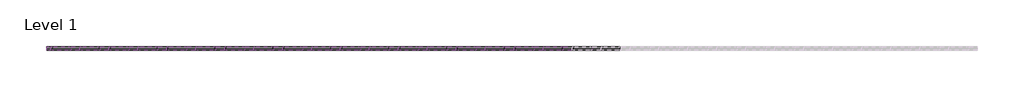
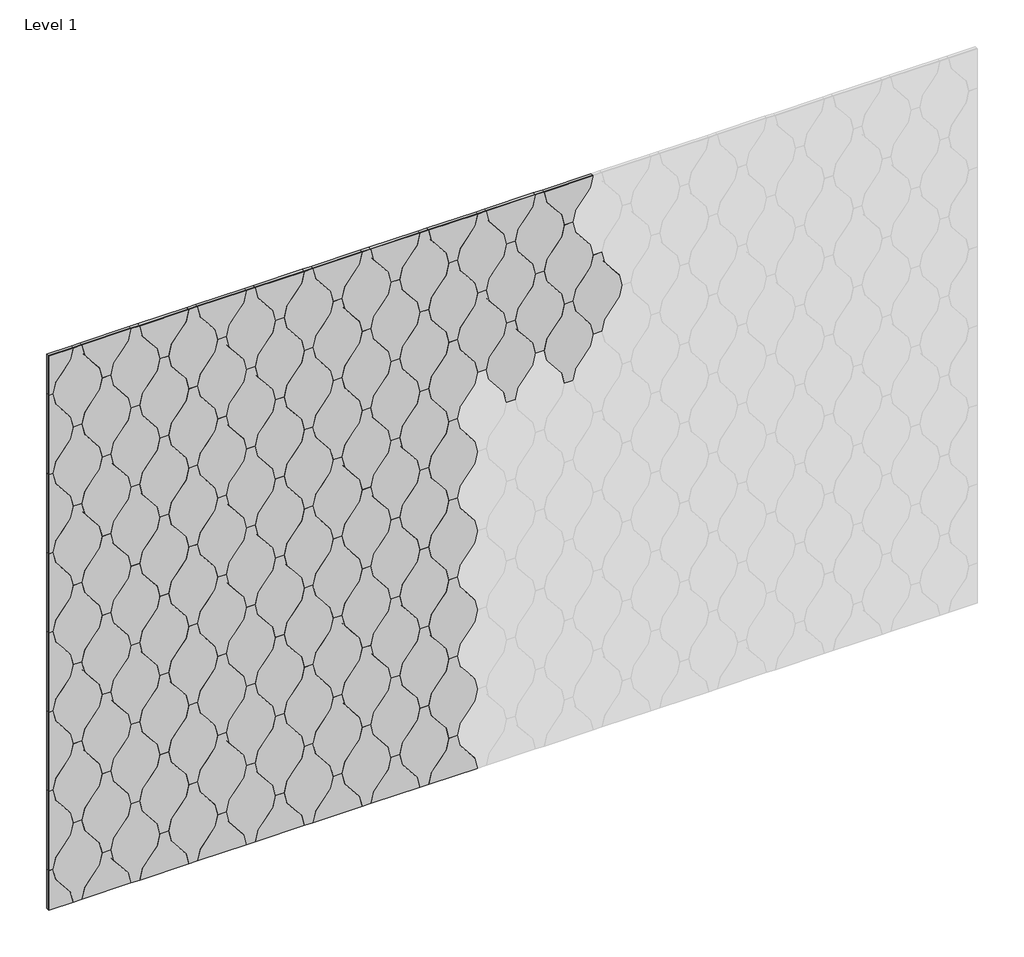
# One storey, part 1 of 2: 124 proxies.
"""IFC4 building model written with IfcOpenShell, lengths in millimetres."""

from ifc_helpers import new_model, si_unit, origin, place, context, project, spatial, transform, mapped, element, save
from components import spindle_block_7b1ab8b0, spindle_block_0c82a0da, spindle_block_164295e7, spindle_block_542214b9, spindle_block_caec9fa1, spindle_block_8c0b6001

model = new_model("IFC4")

# Units and contexts
model_context = context("Model", 3, world=origin())
ifc_project = project(units=[si_unit("LENGTHUNIT", "METRE", prefix="MILLI")], contexts=[model_context])

# Site, building, storey
site = spatial("IfcSite", under=ifc_project)
building = spatial("IfcBuilding", under=site)
storey = spatial("IfcBuildingStorey", under=building, Name="Level 1", Elevation=0.0)

# Proxies
placement = place(None, origin())
spindle_block_shape = spindle_block_7b1ab8b0(model_context)
element("IfcBuildingElementProxy", 1, Name="FilzFelt_Spindle_Block : Spindle Block", ObjectType="FilzFelt_Spindle_Block : Spindle Block", at=placement, inside=storey, context=model_context, shape_type="MappedRepresentation", body=[
    mapped(spindle_block_shape, transform((32453.77409, -3215.9647205, 1371.9), x_axis=(1.0, 0.0, 0.0), y_axis=(0.0, 0.0, 1.0), z_axis=(0.0, -1.0, 0.0))),
])
element("IfcBuildingElementProxy", 2, Name="FilzFelt_Spindle_Block : Spindle Block", ObjectType="FilzFelt_Spindle_Block : Spindle Block", at=placement, inside=storey, context=model_context, shape_type="MappedRepresentation", body=[
    mapped(spindle_block_shape, transform((32453.77409, -3215.9647205, 456.9), x_axis=(1.0, 0.0, 0.0), y_axis=(0.0, 0.0, 1.0), z_axis=(0.0, -1.0, 0.0))),
])
spindle_block_2_shape = spindle_block_0c82a0da(model_context)
element("IfcBuildingElementProxy", 3, Name="FilzFelt_Spindle_Block : Spindle Block", ObjectType="FilzFelt_Spindle_Block : Spindle Block", at=placement, inside=storey, context=model_context, shape_type="MappedRepresentation", body=[
    mapped(spindle_block_2_shape, transform((32558.9946251, -3215.9647205, 1524.4), x_axis=(1.0, 0.0, 0.0), y_axis=(0.0, 0.0, 1.0), z_axis=(0.0, -1.0, 0.0))),
])
element("IfcBuildingElementProxy", 4, Name="FilzFelt_Spindle_Block : Spindle Block", ObjectType="FilzFelt_Spindle_Block : Spindle Block", at=placement, inside=storey, context=model_context, shape_type="MappedRepresentation", body=[
    mapped(spindle_block_2_shape, transform((32664.2151603, -3215.9647205, 1371.9), x_axis=(1.0, 0.0, 0.0), y_axis=(0.0, 0.0, 1.0), z_axis=(0.0, -1.0, 0.0))),
])
element("IfcBuildingElementProxy", 5, Name="FilzFelt_Spindle_Block : Spindle Block", ObjectType="FilzFelt_Spindle_Block : Spindle Block", at=placement, inside=storey, context=model_context, shape_type="MappedRepresentation", body=[
    mapped(spindle_block_2_shape, transform((32874.6562306, -3215.9647205, 1066.9), x_axis=(1.0, 0.0, 0.0), y_axis=(0.0, 0.0, 1.0), z_axis=(0.0, -1.0, 0.0))),
])
element("IfcBuildingElementProxy", 6, Name="FilzFelt_Spindle_Block : Spindle Block", ObjectType="FilzFelt_Spindle_Block : Spindle Block", at=placement, inside=storey, context=model_context, shape_type="MappedRepresentation", body=[
    mapped(spindle_block_2_shape, transform((33085.097301, -3215.9647205, 1371.9), x_axis=(1.0, 0.0, 0.0), y_axis=(0.0, 0.0, 1.0), z_axis=(0.0, -1.0, 0.0))),
])
element("IfcBuildingElementProxy", 7, Name="FilzFelt_Spindle_Block : Spindle Block", ObjectType="FilzFelt_Spindle_Block : Spindle Block", at=placement, inside=storey, context=model_context, shape_type="MappedRepresentation", body=[
    mapped(spindle_block_2_shape, transform((33190.3178361, -3215.9647205, 1524.4), x_axis=(1.0, 0.0, 0.0), y_axis=(0.0, 0.0, 1.0), z_axis=(0.0, -1.0, 0.0))),
])
element("IfcBuildingElementProxy", 8, Name="FilzFelt_Spindle_Block : Spindle Block", ObjectType="FilzFelt_Spindle_Block : Spindle Block", at=placement, inside=storey, context=model_context, shape_type="MappedRepresentation", body=[
    mapped(spindle_block_2_shape, transform((33295.5383713, -3215.9647205, 1371.9), x_axis=(1.0, 0.0, 0.0), y_axis=(0.0, 0.0, 1.0), z_axis=(0.0, -1.0, 0.0))),
])
element("IfcBuildingElementProxy", 9, Name="FilzFelt_Spindle_Block : Spindle Block", ObjectType="FilzFelt_Spindle_Block : Spindle Block", at=placement, inside=storey, context=model_context, shape_type="MappedRepresentation", body=[
    mapped(spindle_block_2_shape, transform((33505.9794416, -3215.9647205, 1066.9), x_axis=(1.0, 0.0, 0.0), y_axis=(0.0, 0.0, 1.0), z_axis=(0.0, -1.0, 0.0))),
])
element("IfcBuildingElementProxy", 10, Name="FilzFelt_Spindle_Block : Spindle Block", ObjectType="FilzFelt_Spindle_Block : Spindle Block", at=placement, inside=storey, context=model_context, shape_type="MappedRepresentation", body=[
    mapped(spindle_block_2_shape, transform((33716.4205119, -3215.9647205, 1371.9), x_axis=(1.0, 0.0, 0.0), y_axis=(0.0, 0.0, 1.0), z_axis=(0.0, -1.0, 0.0))),
])
element("IfcBuildingElementProxy", 11, Name="FilzFelt_Spindle_Block : Spindle Block", ObjectType="FilzFelt_Spindle_Block : Spindle Block", at=placement, inside=storey, context=model_context, shape_type="MappedRepresentation", body=[
    mapped(spindle_block_2_shape, transform((33821.6410471, -3215.9647205, 1524.4), x_axis=(1.0, 0.0, 0.0), y_axis=(0.0, 0.0, 1.0), z_axis=(0.0, -1.0, 0.0))),
])
element("IfcBuildingElementProxy", 12, Name="FilzFelt_Spindle_Block : Spindle Block", ObjectType="FilzFelt_Spindle_Block : Spindle Block", at=placement, inside=storey, context=model_context, shape_type="MappedRepresentation", body=[
    mapped(spindle_block_2_shape, transform((33926.8615823, -3215.9647205, 1371.9), x_axis=(1.0, 0.0, 0.0), y_axis=(0.0, 0.0, 1.0), z_axis=(0.0, -1.0, 0.0))),
])
element("IfcBuildingElementProxy", 13, Name="FilzFelt_Spindle_Block : Spindle Block", ObjectType="FilzFelt_Spindle_Block : Spindle Block", at=placement, inside=storey, context=model_context, shape_type="MappedRepresentation", body=[
    mapped(spindle_block_2_shape, transform((34137.3026526, -3215.9647205, 1066.9), x_axis=(1.0, 0.0, 0.0), y_axis=(0.0, 0.0, 1.0), z_axis=(0.0, -1.0, 0.0))),
])
element("IfcBuildingElementProxy", 14, Name="FilzFelt_Spindle_Block : Spindle Block", ObjectType="FilzFelt_Spindle_Block : Spindle Block", at=placement, inside=storey, context=model_context, shape_type="MappedRepresentation", body=[
    mapped(spindle_block_2_shape, transform((32558.9946251, -3215.9647205, 609.4), x_axis=(1.0, 0.0, 0.0), y_axis=(0.0, 0.0, 1.0), z_axis=(0.0, -1.0, 0.0))),
])
element("IfcBuildingElementProxy", 15, Name="FilzFelt_Spindle_Block : Spindle Block", ObjectType="FilzFelt_Spindle_Block : Spindle Block", at=placement, inside=storey, context=model_context, shape_type="MappedRepresentation", body=[
    mapped(spindle_block_2_shape, transform((32664.2151603, -3215.9647205, 456.9), x_axis=(1.0, 0.0, 0.0), y_axis=(0.0, 0.0, 1.0), z_axis=(0.0, -1.0, 0.0))),
])
element("IfcBuildingElementProxy", 16, Name="FilzFelt_Spindle_Block : Spindle Block", ObjectType="FilzFelt_Spindle_Block : Spindle Block", at=placement, inside=storey, context=model_context, shape_type="MappedRepresentation", body=[
    mapped(spindle_block_2_shape, transform((32769.4356955, -3215.9647205, 914.4), x_axis=(1.0, 0.0, 0.0), y_axis=(0.0, 0.0, 1.0), z_axis=(0.0, -1.0, 0.0))),
])
element("IfcBuildingElementProxy", 17, Name="FilzFelt_Spindle_Block : Spindle Block", ObjectType="FilzFelt_Spindle_Block : Spindle Block", at=placement, inside=storey, context=model_context, shape_type="MappedRepresentation", body=[
    mapped(spindle_block_2_shape, transform((32979.8767658, -3215.9647205, 914.4), x_axis=(1.0, 0.0, 0.0), y_axis=(0.0, 0.0, 1.0), z_axis=(0.0, -1.0, 0.0))),
])
element("IfcBuildingElementProxy", 18, Name="FilzFelt_Spindle_Block : Spindle Block", ObjectType="FilzFelt_Spindle_Block : Spindle Block", at=placement, inside=storey, context=model_context, shape_type="MappedRepresentation", body=[
    mapped(spindle_block_2_shape, transform((33085.097301, -3215.9647205, 456.9), x_axis=(1.0, 0.0, 0.0), y_axis=(0.0, 0.0, 1.0), z_axis=(0.0, -1.0, 0.0))),
])
element("IfcBuildingElementProxy", 19, Name="FilzFelt_Spindle_Block : Spindle Block", ObjectType="FilzFelt_Spindle_Block : Spindle Block", at=placement, inside=storey, context=model_context, shape_type="MappedRepresentation", body=[
    mapped(spindle_block_2_shape, transform((33190.3178361, -3215.9647205, 609.4), x_axis=(1.0, 0.0, 0.0), y_axis=(0.0, 0.0, 1.0), z_axis=(0.0, -1.0, 0.0))),
])
element("IfcBuildingElementProxy", 20, Name="FilzFelt_Spindle_Block : Spindle Block", ObjectType="FilzFelt_Spindle_Block : Spindle Block", at=placement, inside=storey, context=model_context, shape_type="MappedRepresentation", body=[
    mapped(spindle_block_2_shape, transform((33295.5383713, -3215.9647205, 456.9), x_axis=(1.0, 0.0, 0.0), y_axis=(0.0, 0.0, 1.0), z_axis=(0.0, -1.0, 0.0))),
])
element("IfcBuildingElementProxy", 21, Name="FilzFelt_Spindle_Block : Spindle Block", ObjectType="FilzFelt_Spindle_Block : Spindle Block", at=placement, inside=storey, context=model_context, shape_type="MappedRepresentation", body=[
    mapped(spindle_block_2_shape, transform((33400.7589065, -3215.9647205, 914.4), x_axis=(1.0, 0.0, 0.0), y_axis=(0.0, 0.0, 1.0), z_axis=(0.0, -1.0, 0.0))),
])
element("IfcBuildingElementProxy", 22, Name="FilzFelt_Spindle_Block : Spindle Block", ObjectType="FilzFelt_Spindle_Block : Spindle Block", at=placement, inside=storey, context=model_context, shape_type="MappedRepresentation", body=[
    mapped(spindle_block_2_shape, transform((33611.1999768, -3215.9647205, 914.4), x_axis=(1.0, 0.0, 0.0), y_axis=(0.0, 0.0, 1.0), z_axis=(0.0, -1.0, 0.0))),
])
element("IfcBuildingElementProxy", 23, Name="FilzFelt_Spindle_Block : Spindle Block", ObjectType="FilzFelt_Spindle_Block : Spindle Block", at=placement, inside=storey, context=model_context, shape_type="MappedRepresentation", body=[
    mapped(spindle_block_2_shape, transform((33716.4205119, -3215.9647205, 456.9), x_axis=(1.0, 0.0, 0.0), y_axis=(0.0, 0.0, 1.0), z_axis=(0.0, -1.0, 0.0))),
])
element("IfcBuildingElementProxy", 24, Name="FilzFelt_Spindle_Block : Spindle Block", ObjectType="FilzFelt_Spindle_Block : Spindle Block", at=placement, inside=storey, context=model_context, shape_type="MappedRepresentation", body=[
    mapped(spindle_block_2_shape, transform((33821.6410471, -3215.9647205, 609.4), x_axis=(1.0, 0.0, 0.0), y_axis=(0.0, 0.0, 1.0), z_axis=(0.0, -1.0, 0.0))),
])
element("IfcBuildingElementProxy", 25, Name="FilzFelt_Spindle_Block : Spindle Block", ObjectType="FilzFelt_Spindle_Block : Spindle Block", at=placement, inside=storey, context=model_context, shape_type="MappedRepresentation", body=[
    mapped(spindle_block_2_shape, transform((33926.8615823, -3215.9647205, 456.9), x_axis=(1.0, 0.0, 0.0), y_axis=(0.0, 0.0, 1.0), z_axis=(0.0, -1.0, 0.0))),
])
element("IfcBuildingElementProxy", 26, Name="FilzFelt_Spindle_Block : Spindle Block", ObjectType="FilzFelt_Spindle_Block : Spindle Block", at=placement, inside=storey, context=model_context, shape_type="MappedRepresentation", body=[
    mapped(spindle_block_2_shape, transform((32769.4356955, -3215.9647205, -0.6), x_axis=(1.0, 0.0, 0.0), y_axis=(0.0, 0.0, 1.0), z_axis=(0.0, -1.0, 0.0))),
])
element("IfcBuildingElementProxy", 27, Name="FilzFelt_Spindle_Block : Spindle Block", ObjectType="FilzFelt_Spindle_Block : Spindle Block", at=placement, inside=storey, context=model_context, shape_type="MappedRepresentation", body=[
    mapped(spindle_block_2_shape, transform((32874.6562306, -3215.9647205, 151.9), x_axis=(1.0, 0.0, 0.0), y_axis=(0.0, 0.0, 1.0), z_axis=(0.0, -1.0, 0.0))),
])
element("IfcBuildingElementProxy", 28, Name="FilzFelt_Spindle_Block : Spindle Block", ObjectType="FilzFelt_Spindle_Block : Spindle Block", at=placement, inside=storey, context=model_context, shape_type="MappedRepresentation", body=[
    mapped(spindle_block_2_shape, transform((32979.8767658, -3215.9647205, -0.6), x_axis=(1.0, 0.0, 0.0), y_axis=(0.0, 0.0, 1.0), z_axis=(0.0, -1.0, 0.0))),
])
element("IfcBuildingElementProxy", 29, Name="FilzFelt_Spindle_Block : Spindle Block", ObjectType="FilzFelt_Spindle_Block : Spindle Block", at=placement, inside=storey, context=model_context, shape_type="MappedRepresentation", body=[
    mapped(spindle_block_2_shape, transform((33400.7589065, -3215.9647205, -0.6), x_axis=(1.0, 0.0, 0.0), y_axis=(0.0, 0.0, 1.0), z_axis=(0.0, -1.0, 0.0))),
])
element("IfcBuildingElementProxy", 30, Name="FilzFelt_Spindle_Block : Spindle Block", ObjectType="FilzFelt_Spindle_Block : Spindle Block", at=placement, inside=storey, context=model_context, shape_type="MappedRepresentation", body=[
    mapped(spindle_block_2_shape, transform((33505.9794416, -3215.9647205, 151.9), x_axis=(1.0, 0.0, 0.0), y_axis=(0.0, 0.0, 1.0), z_axis=(0.0, -1.0, 0.0))),
])
element("IfcBuildingElementProxy", 31, Name="FilzFelt_Spindle_Block : Spindle Block", ObjectType="FilzFelt_Spindle_Block : Spindle Block", at=placement, inside=storey, context=model_context, shape_type="MappedRepresentation", body=[
    mapped(spindle_block_2_shape, transform((33611.1999768, -3215.9647205, -0.6), x_axis=(1.0, 0.0, 0.0), y_axis=(0.0, 0.0, 1.0), z_axis=(0.0, -1.0, 0.0))),
])
element("IfcBuildingElementProxy", 32, Name="FilzFelt_Spindle_Block : Spindle Block", ObjectType="FilzFelt_Spindle_Block : Spindle Block", at=placement, inside=storey, context=model_context, shape_type="MappedRepresentation", body=[
    mapped(spindle_block_2_shape, transform((32558.9946251, -3215.9647205, -305.6), x_axis=(1.0, 0.0, 0.0), y_axis=(0.0, 0.0, 1.0), z_axis=(0.0, -1.0, 0.0))),
])
element("IfcBuildingElementProxy", 33, Name="FilzFelt_Spindle_Block : Spindle Block", ObjectType="FilzFelt_Spindle_Block : Spindle Block", at=placement, inside=storey, context=model_context, shape_type="MappedRepresentation", body=[
    mapped(spindle_block_2_shape, transform((33190.3178361, -3215.9647205, -305.6), x_axis=(1.0, 0.0, 0.0), y_axis=(0.0, 0.0, 1.0), z_axis=(0.0, -1.0, 0.0))),
])
element("IfcBuildingElementProxy", 34, Name="FilzFelt_Spindle_Block : Spindle Block", ObjectType="FilzFelt_Spindle_Block : Spindle Block", at=placement, inside=storey, context=model_context, shape_type="MappedRepresentation", body=[
    mapped(spindle_block_2_shape, transform((33821.6410471, -3215.9647205, -305.6), x_axis=(1.0, 0.0, 0.0), y_axis=(0.0, 0.0, 1.0), z_axis=(0.0, -1.0, 0.0))),
])
spindle_block_3_shape = spindle_block_164295e7(model_context)
element("IfcBuildingElementProxy", 35, Name="FilzFelt_Spindle_Block : Spindle Block", ObjectType="FilzFelt_Spindle_Block : Spindle Block", at=placement, inside=storey, context=model_context, shape_type="MappedRepresentation", body=[
    mapped(spindle_block_3_shape, transform((32664.2151603, -3215.9647205, -458.1), x_axis=(1.0, 0.0, 0.0), y_axis=(0.0, 0.0, 1.0), z_axis=(0.0, -1.0, 0.0))),
])
element("IfcBuildingElementProxy", 36, Name="FilzFelt_Spindle_Block : Spindle Block", ObjectType="FilzFelt_Spindle_Block : Spindle Block", at=placement, inside=storey, context=model_context, shape_type="MappedRepresentation", body=[
    mapped(spindle_block_3_shape, transform((33085.097301, -3215.9647205, -458.1), x_axis=(1.0, 0.0, 0.0), y_axis=(0.0, 0.0, 1.0), z_axis=(0.0, -1.0, 0.0))),
])
element("IfcBuildingElementProxy", 37, Name="FilzFelt_Spindle_Block : Spindle Block", ObjectType="FilzFelt_Spindle_Block : Spindle Block", at=placement, inside=storey, context=model_context, shape_type="MappedRepresentation", body=[
    mapped(spindle_block_3_shape, transform((33295.5383713, -3215.9647205, -458.1), x_axis=(1.0, 0.0, 0.0), y_axis=(0.0, 0.0, 1.0), z_axis=(0.0, -1.0, 0.0))),
])
element("IfcBuildingElementProxy", 38, Name="FilzFelt_Spindle_Block : Spindle Block", ObjectType="FilzFelt_Spindle_Block : Spindle Block", at=placement, inside=storey, context=model_context, shape_type="MappedRepresentation", body=[
    mapped(spindle_block_3_shape, transform((33716.4205119, -3215.9647205, -458.1), x_axis=(1.0, 0.0, 0.0), y_axis=(0.0, 0.0, 1.0), z_axis=(0.0, -1.0, 0.0))),
])
element("IfcBuildingElementProxy", 39, Name="FilzFelt_Spindle_Block : Spindle Block", ObjectType="FilzFelt_Spindle_Block : Spindle Block", at=placement, inside=storey, context=model_context, shape_type="MappedRepresentation", body=[
    mapped(spindle_block_3_shape, transform((33926.8615823, -3215.9647205, -458.1), x_axis=(1.0, 0.0, 0.0), y_axis=(0.0, 0.0, 1.0), z_axis=(0.0, -1.0, 0.0))),
])
spindle_block_4_shape = spindle_block_542214b9(model_context)
element("IfcBuildingElementProxy", 40, Name="FilzFelt_Spindle_Block : Spindle Block", ObjectType="FilzFelt_Spindle_Block : Spindle Block", at=placement, inside=storey, context=model_context, shape_type="MappedRepresentation", body=[
    mapped(spindle_block_4_shape, transform((32453.77409, -3215.9647205, -458.1), x_axis=(1.0, 0.0, 0.0), y_axis=(0.0, 0.0, 1.0), z_axis=(0.0, -1.0, 0.0))),
])
element("IfcBuildingElementProxy", 41, Name="FilzFelt_Spindle_Block : Spindle Block", ObjectType="FilzFelt_Spindle_Block : Spindle Block", at=placement, inside=storey, context=model_context, shape_type="MappedRepresentation", body=[
    mapped(spindle_block_shape, transform((32453.77409, -3215.9647205, 1066.9), x_axis=(1.0, 0.0, 0.0), y_axis=(0.0, 0.0, 1.0), z_axis=(0.0, -1.0, 0.0))),
])
element("IfcBuildingElementProxy", 42, Name="FilzFelt_Spindle_Block : Spindle Block", ObjectType="FilzFelt_Spindle_Block : Spindle Block", at=placement, inside=storey, context=model_context, shape_type="MappedRepresentation", body=[
    mapped(spindle_block_shape, transform((32453.77409, -3215.9647205, 151.9), x_axis=(1.0, 0.0, 0.0), y_axis=(0.0, 0.0, 1.0), z_axis=(0.0, -1.0, 0.0))),
])
element("IfcBuildingElementProxy", 43, Name="FilzFelt_Spindle_Block : Spindle Block", ObjectType="FilzFelt_Spindle_Block : Spindle Block", at=placement, inside=storey, context=model_context, shape_type="MappedRepresentation", body=[
    mapped(spindle_block_2_shape, transform((32558.9946251, -3215.9647205, 1219.4), x_axis=(1.0, 0.0, 0.0), y_axis=(0.0, 0.0, 1.0), z_axis=(0.0, -1.0, 0.0))),
])
element("IfcBuildingElementProxy", 44, Name="FilzFelt_Spindle_Block : Spindle Block", ObjectType="FilzFelt_Spindle_Block : Spindle Block", at=placement, inside=storey, context=model_context, shape_type="MappedRepresentation", body=[
    mapped(spindle_block_2_shape, transform((32664.2151603, -3215.9647205, 1066.9), x_axis=(1.0, 0.0, 0.0), y_axis=(0.0, 0.0, 1.0), z_axis=(0.0, -1.0, 0.0))),
])
element("IfcBuildingElementProxy", 45, Name="FilzFelt_Spindle_Block : Spindle Block", ObjectType="FilzFelt_Spindle_Block : Spindle Block", at=placement, inside=storey, context=model_context, shape_type="MappedRepresentation", body=[
    mapped(spindle_block_2_shape, transform((32769.4356955, -3215.9647205, 1524.4), x_axis=(1.0, 0.0, 0.0), y_axis=(0.0, 0.0, 1.0), z_axis=(0.0, -1.0, 0.0))),
])
element("IfcBuildingElementProxy", 46, Name="FilzFelt_Spindle_Block : Spindle Block", ObjectType="FilzFelt_Spindle_Block : Spindle Block", at=placement, inside=storey, context=model_context, shape_type="MappedRepresentation", body=[
    mapped(spindle_block_2_shape, transform((32979.8767658, -3215.9647205, 1524.4), x_axis=(1.0, 0.0, 0.0), y_axis=(0.0, 0.0, 1.0), z_axis=(0.0, -1.0, 0.0))),
])
element("IfcBuildingElementProxy", 47, Name="FilzFelt_Spindle_Block : Spindle Block", ObjectType="FilzFelt_Spindle_Block : Spindle Block", at=placement, inside=storey, context=model_context, shape_type="MappedRepresentation", body=[
    mapped(spindle_block_2_shape, transform((33085.097301, -3215.9647205, 1066.9), x_axis=(1.0, 0.0, 0.0), y_axis=(0.0, 0.0, 1.0), z_axis=(0.0, -1.0, 0.0))),
])
element("IfcBuildingElementProxy", 48, Name="FilzFelt_Spindle_Block : Spindle Block", ObjectType="FilzFelt_Spindle_Block : Spindle Block", at=placement, inside=storey, context=model_context, shape_type="MappedRepresentation", body=[
    mapped(spindle_block_2_shape, transform((33190.3178361, -3215.9647205, 1219.4), x_axis=(1.0, 0.0, 0.0), y_axis=(0.0, 0.0, 1.0), z_axis=(0.0, -1.0, 0.0))),
])
element("IfcBuildingElementProxy", 49, Name="FilzFelt_Spindle_Block : Spindle Block", ObjectType="FilzFelt_Spindle_Block : Spindle Block", at=placement, inside=storey, context=model_context, shape_type="MappedRepresentation", body=[
    mapped(spindle_block_2_shape, transform((33295.5383713, -3215.9647205, 1066.9), x_axis=(1.0, 0.0, 0.0), y_axis=(0.0, 0.0, 1.0), z_axis=(0.0, -1.0, 0.0))),
])
element("IfcBuildingElementProxy", 50, Name="FilzFelt_Spindle_Block : Spindle Block", ObjectType="FilzFelt_Spindle_Block : Spindle Block", at=placement, inside=storey, context=model_context, shape_type="MappedRepresentation", body=[
    mapped(spindle_block_2_shape, transform((33400.7589065, -3215.9647205, 1524.4), x_axis=(1.0, 0.0, 0.0), y_axis=(0.0, 0.0, 1.0), z_axis=(0.0, -1.0, 0.0))),
])
element("IfcBuildingElementProxy", 51, Name="FilzFelt_Spindle_Block : Spindle Block", ObjectType="FilzFelt_Spindle_Block : Spindle Block", at=placement, inside=storey, context=model_context, shape_type="MappedRepresentation", body=[
    mapped(spindle_block_2_shape, transform((33611.1999768, -3215.9647205, 1524.4), x_axis=(1.0, 0.0, 0.0), y_axis=(0.0, 0.0, 1.0), z_axis=(0.0, -1.0, 0.0))),
])
element("IfcBuildingElementProxy", 52, Name="FilzFelt_Spindle_Block : Spindle Block", ObjectType="FilzFelt_Spindle_Block : Spindle Block", at=placement, inside=storey, context=model_context, shape_type="MappedRepresentation", body=[
    mapped(spindle_block_2_shape, transform((33716.4205119, -3215.9647205, 1066.9), x_axis=(1.0, 0.0, 0.0), y_axis=(0.0, 0.0, 1.0), z_axis=(0.0, -1.0, 0.0))),
])
element("IfcBuildingElementProxy", 53, Name="FilzFelt_Spindle_Block : Spindle Block", ObjectType="FilzFelt_Spindle_Block : Spindle Block", at=placement, inside=storey, context=model_context, shape_type="MappedRepresentation", body=[
    mapped(spindle_block_2_shape, transform((33821.6410471, -3215.9647205, 1219.4), x_axis=(1.0, 0.0, 0.0), y_axis=(0.0, 0.0, 1.0), z_axis=(0.0, -1.0, 0.0))),
])
element("IfcBuildingElementProxy", 54, Name="FilzFelt_Spindle_Block : Spindle Block", ObjectType="FilzFelt_Spindle_Block : Spindle Block", at=placement, inside=storey, context=model_context, shape_type="MappedRepresentation", body=[
    mapped(spindle_block_2_shape, transform((33926.8615823, -3215.9647205, 1066.9), x_axis=(1.0, 0.0, 0.0), y_axis=(0.0, 0.0, 1.0), z_axis=(0.0, -1.0, 0.0))),
])
element("IfcBuildingElementProxy", 55, Name="FilzFelt_Spindle_Block : Spindle Block", ObjectType="FilzFelt_Spindle_Block : Spindle Block", at=placement, inside=storey, context=model_context, shape_type="MappedRepresentation", body=[
    mapped(spindle_block_2_shape, transform((34032.0821174, -3215.9647205, 1524.4), x_axis=(1.0, 0.0, 0.0), y_axis=(0.0, 0.0, 1.0), z_axis=(0.0, -1.0, 0.0))),
])
element("IfcBuildingElementProxy", 56, Name="FilzFelt_Spindle_Block : Spindle Block", ObjectType="FilzFelt_Spindle_Block : Spindle Block", at=placement, inside=storey, context=model_context, shape_type="MappedRepresentation", body=[
    mapped(spindle_block_2_shape, transform((34242.5231878, -3215.9647205, 1524.4), x_axis=(1.0, 0.0, 0.0), y_axis=(0.0, 0.0, 1.0), z_axis=(0.0, -1.0, 0.0))),
])
element("IfcBuildingElementProxy", 57, Name="FilzFelt_Spindle_Block : Spindle Block", ObjectType="FilzFelt_Spindle_Block : Spindle Block", at=placement, inside=storey, context=model_context, shape_type="MappedRepresentation", body=[
    mapped(spindle_block_2_shape, transform((34347.7437229, -3215.9647205, 1066.9), x_axis=(1.0, 0.0, 0.0), y_axis=(0.0, 0.0, 1.0), z_axis=(0.0, -1.0, 0.0))),
])
element("IfcBuildingElementProxy", 58, Name="FilzFelt_Spindle_Block : Spindle Block", ObjectType="FilzFelt_Spindle_Block : Spindle Block", at=placement, inside=storey, context=model_context, shape_type="MappedRepresentation", body=[
    mapped(spindle_block_2_shape, transform((34452.9642581, -3215.9647205, 1219.4), x_axis=(1.0, 0.0, 0.0), y_axis=(0.0, 0.0, 1.0), z_axis=(0.0, -1.0, 0.0))),
])
element("IfcBuildingElementProxy", 59, Name="FilzFelt_Spindle_Block : Spindle Block", ObjectType="FilzFelt_Spindle_Block : Spindle Block", at=placement, inside=storey, context=model_context, shape_type="MappedRepresentation", body=[
    mapped(spindle_block_2_shape, transform((32769.4356955, -3215.9647205, 609.4), x_axis=(1.0, 0.0, 0.0), y_axis=(0.0, 0.0, 1.0), z_axis=(0.0, -1.0, 0.0))),
])
element("IfcBuildingElementProxy", 60, Name="FilzFelt_Spindle_Block : Spindle Block", ObjectType="FilzFelt_Spindle_Block : Spindle Block", at=placement, inside=storey, context=model_context, shape_type="MappedRepresentation", body=[
    mapped(spindle_block_2_shape, transform((32874.6562306, -3215.9647205, 761.9), x_axis=(1.0, 0.0, 0.0), y_axis=(0.0, 0.0, 1.0), z_axis=(0.0, -1.0, 0.0))),
])
element("IfcBuildingElementProxy", 61, Name="FilzFelt_Spindle_Block : Spindle Block", ObjectType="FilzFelt_Spindle_Block : Spindle Block", at=placement, inside=storey, context=model_context, shape_type="MappedRepresentation", body=[
    mapped(spindle_block_2_shape, transform((32979.8767658, -3215.9647205, 609.4), x_axis=(1.0, 0.0, 0.0), y_axis=(0.0, 0.0, 1.0), z_axis=(0.0, -1.0, 0.0))),
])
element("IfcBuildingElementProxy", 62, Name="FilzFelt_Spindle_Block : Spindle Block", ObjectType="FilzFelt_Spindle_Block : Spindle Block", at=placement, inside=storey, context=model_context, shape_type="MappedRepresentation", body=[
    mapped(spindle_block_2_shape, transform((33400.7589065, -3215.9647205, 609.4), x_axis=(1.0, 0.0, 0.0), y_axis=(0.0, 0.0, 1.0), z_axis=(0.0, -1.0, 0.0))),
])
element("IfcBuildingElementProxy", 63, Name="FilzFelt_Spindle_Block : Spindle Block", ObjectType="FilzFelt_Spindle_Block : Spindle Block", at=placement, inside=storey, context=model_context, shape_type="MappedRepresentation", body=[
    mapped(spindle_block_2_shape, transform((33505.9794416, -3215.9647205, 761.9), x_axis=(1.0, 0.0, 0.0), y_axis=(0.0, 0.0, 1.0), z_axis=(0.0, -1.0, 0.0))),
])
element("IfcBuildingElementProxy", 64, Name="FilzFelt_Spindle_Block : Spindle Block", ObjectType="FilzFelt_Spindle_Block : Spindle Block", at=placement, inside=storey, context=model_context, shape_type="MappedRepresentation", body=[
    mapped(spindle_block_2_shape, transform((33611.1999768, -3215.9647205, 609.4), x_axis=(1.0, 0.0, 0.0), y_axis=(0.0, 0.0, 1.0), z_axis=(0.0, -1.0, 0.0))),
])
element("IfcBuildingElementProxy", 65, Name="FilzFelt_Spindle_Block : Spindle Block", ObjectType="FilzFelt_Spindle_Block : Spindle Block", at=placement, inside=storey, context=model_context, shape_type="MappedRepresentation", body=[
    mapped(spindle_block_2_shape, transform((32558.9946251, -3215.9647205, 304.4), x_axis=(1.0, 0.0, 0.0), y_axis=(0.0, 0.0, 1.0), z_axis=(0.0, -1.0, 0.0))),
])
element("IfcBuildingElementProxy", 66, Name="FilzFelt_Spindle_Block : Spindle Block", ObjectType="FilzFelt_Spindle_Block : Spindle Block", at=placement, inside=storey, context=model_context, shape_type="MappedRepresentation", body=[
    mapped(spindle_block_2_shape, transform((32664.2151603, -3215.9647205, 151.9), x_axis=(1.0, 0.0, 0.0), y_axis=(0.0, 0.0, 1.0), z_axis=(0.0, -1.0, 0.0))),
])
element("IfcBuildingElementProxy", 67, Name="FilzFelt_Spindle_Block : Spindle Block", ObjectType="FilzFelt_Spindle_Block : Spindle Block", at=placement, inside=storey, context=model_context, shape_type="MappedRepresentation", body=[
    mapped(spindle_block_2_shape, transform((32874.6562306, -3215.9647205, -153.1), x_axis=(1.0, 0.0, 0.0), y_axis=(0.0, 0.0, 1.0), z_axis=(0.0, -1.0, 0.0))),
])
element("IfcBuildingElementProxy", 68, Name="FilzFelt_Spindle_Block : Spindle Block", ObjectType="FilzFelt_Spindle_Block : Spindle Block", at=placement, inside=storey, context=model_context, shape_type="MappedRepresentation", body=[
    mapped(spindle_block_2_shape, transform((33085.097301, -3215.9647205, 151.9), x_axis=(1.0, 0.0, 0.0), y_axis=(0.0, 0.0, 1.0), z_axis=(0.0, -1.0, 0.0))),
])
element("IfcBuildingElementProxy", 69, Name="FilzFelt_Spindle_Block : Spindle Block", ObjectType="FilzFelt_Spindle_Block : Spindle Block", at=placement, inside=storey, context=model_context, shape_type="MappedRepresentation", body=[
    mapped(spindle_block_2_shape, transform((33190.3178361, -3215.9647205, 304.4), x_axis=(1.0, 0.0, 0.0), y_axis=(0.0, 0.0, 1.0), z_axis=(0.0, -1.0, 0.0))),
])
element("IfcBuildingElementProxy", 70, Name="FilzFelt_Spindle_Block : Spindle Block", ObjectType="FilzFelt_Spindle_Block : Spindle Block", at=placement, inside=storey, context=model_context, shape_type="MappedRepresentation", body=[
    mapped(spindle_block_2_shape, transform((33295.5383713, -3215.9647205, 151.9), x_axis=(1.0, 0.0, 0.0), y_axis=(0.0, 0.0, 1.0), z_axis=(0.0, -1.0, 0.0))),
])
element("IfcBuildingElementProxy", 71, Name="FilzFelt_Spindle_Block : Spindle Block", ObjectType="FilzFelt_Spindle_Block : Spindle Block", at=placement, inside=storey, context=model_context, shape_type="MappedRepresentation", body=[
    mapped(spindle_block_2_shape, transform((33505.9794416, -3215.9647205, -153.1), x_axis=(1.0, 0.0, 0.0), y_axis=(0.0, 0.0, 1.0), z_axis=(0.0, -1.0, 0.0))),
])
element("IfcBuildingElementProxy", 72, Name="FilzFelt_Spindle_Block : Spindle Block", ObjectType="FilzFelt_Spindle_Block : Spindle Block", at=placement, inside=storey, context=model_context, shape_type="MappedRepresentation", body=[
    mapped(spindle_block_2_shape, transform((33716.4205119, -3215.9647205, 151.9), x_axis=(1.0, 0.0, 0.0), y_axis=(0.0, 0.0, 1.0), z_axis=(0.0, -1.0, 0.0))),
])
element("IfcBuildingElementProxy", 73, Name="FilzFelt_Spindle_Block : Spindle Block", ObjectType="FilzFelt_Spindle_Block : Spindle Block", at=placement, inside=storey, context=model_context, shape_type="MappedRepresentation", body=[
    mapped(spindle_block_2_shape, transform((33821.6410471, -3215.9647205, 304.4), x_axis=(1.0, 0.0, 0.0), y_axis=(0.0, 0.0, 1.0), z_axis=(0.0, -1.0, 0.0))),
])
element("IfcBuildingElementProxy", 74, Name="FilzFelt_Spindle_Block : Spindle Block", ObjectType="FilzFelt_Spindle_Block : Spindle Block", at=placement, inside=storey, context=model_context, shape_type="MappedRepresentation", body=[
    mapped(spindle_block_2_shape, transform((33926.8615823, -3215.9647205, 151.9), x_axis=(1.0, 0.0, 0.0), y_axis=(0.0, 0.0, 1.0), z_axis=(0.0, -1.0, 0.0))),
])
element("IfcBuildingElementProxy", 75, Name="FilzFelt_Spindle_Block : Spindle Block", ObjectType="FilzFelt_Spindle_Block : Spindle Block", at=placement, inside=storey, context=model_context, shape_type="MappedRepresentation", body=[
    mapped(spindle_block_2_shape, transform((32769.4356955, -3215.9647205, -305.6), x_axis=(1.0, 0.0, 0.0), y_axis=(0.0, 0.0, 1.0), z_axis=(0.0, -1.0, 0.0))),
])
element("IfcBuildingElementProxy", 76, Name="FilzFelt_Spindle_Block : Spindle Block", ObjectType="FilzFelt_Spindle_Block : Spindle Block", at=placement, inside=storey, context=model_context, shape_type="MappedRepresentation", body=[
    mapped(spindle_block_2_shape, transform((32979.8767658, -3215.9647205, -305.6), x_axis=(1.0, 0.0, 0.0), y_axis=(0.0, 0.0, 1.0), z_axis=(0.0, -1.0, 0.0))),
])
element("IfcBuildingElementProxy", 77, Name="FilzFelt_Spindle_Block : Spindle Block", ObjectType="FilzFelt_Spindle_Block : Spindle Block", at=placement, inside=storey, context=model_context, shape_type="MappedRepresentation", body=[
    mapped(spindle_block_2_shape, transform((33400.7589065, -3215.9647205, -305.6), x_axis=(1.0, 0.0, 0.0), y_axis=(0.0, 0.0, 1.0), z_axis=(0.0, -1.0, 0.0))),
])
element("IfcBuildingElementProxy", 78, Name="FilzFelt_Spindle_Block : Spindle Block", ObjectType="FilzFelt_Spindle_Block : Spindle Block", at=placement, inside=storey, context=model_context, shape_type="MappedRepresentation", body=[
    mapped(spindle_block_2_shape, transform((33611.1999768, -3215.9647205, -305.6), x_axis=(1.0, 0.0, 0.0), y_axis=(0.0, 0.0, 1.0), z_axis=(0.0, -1.0, 0.0))),
])
spindle_block_5_shape = spindle_block_caec9fa1(model_context)
element("IfcBuildingElementProxy", 79, Name="FilzFelt_Spindle_Block : Spindle Block", ObjectType="FilzFelt_Spindle_Block : Spindle Block", at=placement, inside=storey, context=model_context, shape_type="MappedRepresentation", body=[
    mapped(spindle_block_5_shape, transform((32874.6562306, -3215.9647205, 1676.9), x_axis=(1.0, 0.0, 0.0), y_axis=(0.0, 0.0, 1.0), z_axis=(0.0, -1.0, 0.0))),
])
element("IfcBuildingElementProxy", 80, Name="FilzFelt_Spindle_Block : Spindle Block", ObjectType="FilzFelt_Spindle_Block : Spindle Block", at=placement, inside=storey, context=model_context, shape_type="MappedRepresentation", body=[
    mapped(spindle_block_5_shape, transform((33505.9794416, -3215.9647205, 1676.9), x_axis=(1.0, 0.0, 0.0), y_axis=(0.0, 0.0, 1.0), z_axis=(0.0, -1.0, 0.0))),
])
element("IfcBuildingElementProxy", 81, Name="FilzFelt_Spindle_Block : Spindle Block", ObjectType="FilzFelt_Spindle_Block : Spindle Block", at=placement, inside=storey, context=model_context, shape_type="MappedRepresentation", body=[
    mapped(spindle_block_5_shape, transform((34137.3026526, -3215.9647205, 1676.9), x_axis=(1.0, 0.0, 0.0), y_axis=(0.0, 0.0, 1.0), z_axis=(0.0, -1.0, 0.0))),
])
spindle_block_6_shape = spindle_block_8c0b6001(model_context)
element("IfcBuildingElementProxy", 82, Name="FilzFelt_Spindle_Block : Spindle Block", ObjectType="FilzFelt_Spindle_Block : Spindle Block", at=placement, inside=storey, context=model_context, shape_type="MappedRepresentation", body=[
    mapped(spindle_block_6_shape, transform((32453.77409, -3215.9647205, 1676.9), x_axis=(1.0, 0.0, 0.0), y_axis=(0.0, 0.0, 1.0), z_axis=(0.0, -1.0, 0.0))),
])
element("IfcBuildingElementProxy", 83, Name="FilzFelt_Spindle_Block : Spindle Block", ObjectType="FilzFelt_Spindle_Block : Spindle Block", at=placement, inside=storey, context=model_context, shape_type="MappedRepresentation", body=[
    mapped(spindle_block_5_shape, transform((32664.2151603, -3215.9647205, 1676.9), x_axis=(1.0, 0.0, 0.0), y_axis=(0.0, 0.0, 1.0), z_axis=(0.0, -1.0, 0.0))),
])
element("IfcBuildingElementProxy", 84, Name="FilzFelt_Spindle_Block : Spindle Block", ObjectType="FilzFelt_Spindle_Block : Spindle Block", at=placement, inside=storey, context=model_context, shape_type="MappedRepresentation", body=[
    mapped(spindle_block_5_shape, transform((33085.097301, -3215.9647205, 1676.9), x_axis=(1.0, 0.0, 0.0), y_axis=(0.0, 0.0, 1.0), z_axis=(0.0, -1.0, 0.0))),
])
element("IfcBuildingElementProxy", 85, Name="FilzFelt_Spindle_Block : Spindle Block", ObjectType="FilzFelt_Spindle_Block : Spindle Block", at=placement, inside=storey, context=model_context, shape_type="MappedRepresentation", body=[
    mapped(spindle_block_5_shape, transform((33295.5383713, -3215.9647205, 1676.9), x_axis=(1.0, 0.0, 0.0), y_axis=(0.0, 0.0, 1.0), z_axis=(0.0, -1.0, 0.0))),
])
element("IfcBuildingElementProxy", 86, Name="FilzFelt_Spindle_Block : Spindle Block", ObjectType="FilzFelt_Spindle_Block : Spindle Block", at=placement, inside=storey, context=model_context, shape_type="MappedRepresentation", body=[
    mapped(spindle_block_5_shape, transform((33716.4205119, -3215.9647205, 1676.9), x_axis=(1.0, 0.0, 0.0), y_axis=(0.0, 0.0, 1.0), z_axis=(0.0, -1.0, 0.0))),
])
element("IfcBuildingElementProxy", 87, Name="FilzFelt_Spindle_Block : Spindle Block", ObjectType="FilzFelt_Spindle_Block : Spindle Block", at=placement, inside=storey, context=model_context, shape_type="MappedRepresentation", body=[
    mapped(spindle_block_5_shape, transform((33926.8615823, -3215.9647205, 1676.9), x_axis=(1.0, 0.0, 0.0), y_axis=(0.0, 0.0, 1.0), z_axis=(0.0, -1.0, 0.0))),
])
element("IfcBuildingElementProxy", 88, Name="FilzFelt_Spindle_Block : Spindle Block", ObjectType="FilzFelt_Spindle_Block : Spindle Block", at=placement, inside=storey, context=model_context, shape_type="MappedRepresentation", body=[
    mapped(spindle_block_5_shape, transform((34347.7437229, -3215.9647205, 1676.9), x_axis=(1.0, 0.0, 0.0), y_axis=(0.0, 0.0, 1.0), z_axis=(0.0, -1.0, 0.0))),
])
element("IfcBuildingElementProxy", 89, Name="FilzFelt_Spindle_Block : Spindle Block", ObjectType="FilzFelt_Spindle_Block : Spindle Block", at=placement, inside=storey, context=model_context, shape_type="MappedRepresentation", body=[
    mapped(spindle_block_2_shape, transform((32769.4356955, -3215.9647205, 1219.4), x_axis=(1.0, 0.0, 0.0), y_axis=(0.0, 0.0, 1.0), z_axis=(0.0, -1.0, 0.0))),
])
element("IfcBuildingElementProxy", 90, Name="FilzFelt_Spindle_Block : Spindle Block", ObjectType="FilzFelt_Spindle_Block : Spindle Block", at=placement, inside=storey, context=model_context, shape_type="MappedRepresentation", body=[
    mapped(spindle_block_2_shape, transform((32874.6562306, -3215.9647205, 1371.9), x_axis=(1.0, 0.0, 0.0), y_axis=(0.0, 0.0, 1.0), z_axis=(0.0, -1.0, 0.0))),
])
element("IfcBuildingElementProxy", 91, Name="FilzFelt_Spindle_Block : Spindle Block", ObjectType="FilzFelt_Spindle_Block : Spindle Block", at=placement, inside=storey, context=model_context, shape_type="MappedRepresentation", body=[
    mapped(spindle_block_2_shape, transform((32979.8767658, -3215.9647205, 1219.4), x_axis=(1.0, 0.0, 0.0), y_axis=(0.0, 0.0, 1.0), z_axis=(0.0, -1.0, 0.0))),
])
element("IfcBuildingElementProxy", 92, Name="FilzFelt_Spindle_Block : Spindle Block", ObjectType="FilzFelt_Spindle_Block : Spindle Block", at=placement, inside=storey, context=model_context, shape_type="MappedRepresentation", body=[
    mapped(spindle_block_2_shape, transform((33400.7589065, -3215.9647205, 1219.4), x_axis=(1.0, 0.0, 0.0), y_axis=(0.0, 0.0, 1.0), z_axis=(0.0, -1.0, 0.0))),
])
element("IfcBuildingElementProxy", 93, Name="FilzFelt_Spindle_Block : Spindle Block", ObjectType="FilzFelt_Spindle_Block : Spindle Block", at=placement, inside=storey, context=model_context, shape_type="MappedRepresentation", body=[
    mapped(spindle_block_2_shape, transform((33505.9794416, -3215.9647205, 1371.9), x_axis=(1.0, 0.0, 0.0), y_axis=(0.0, 0.0, 1.0), z_axis=(0.0, -1.0, 0.0))),
])
element("IfcBuildingElementProxy", 94, Name="FilzFelt_Spindle_Block : Spindle Block", ObjectType="FilzFelt_Spindle_Block : Spindle Block", at=placement, inside=storey, context=model_context, shape_type="MappedRepresentation", body=[
    mapped(spindle_block_2_shape, transform((33611.1999768, -3215.9647205, 1219.4), x_axis=(1.0, 0.0, 0.0), y_axis=(0.0, 0.0, 1.0), z_axis=(0.0, -1.0, 0.0))),
])
element("IfcBuildingElementProxy", 95, Name="FilzFelt_Spindle_Block : Spindle Block", ObjectType="FilzFelt_Spindle_Block : Spindle Block", at=placement, inside=storey, context=model_context, shape_type="MappedRepresentation", body=[
    mapped(spindle_block_2_shape, transform((34032.0821174, -3215.9647205, 1219.4), x_axis=(1.0, 0.0, 0.0), y_axis=(0.0, 0.0, 1.0), z_axis=(0.0, -1.0, 0.0))),
])
element("IfcBuildingElementProxy", 96, Name="FilzFelt_Spindle_Block : Spindle Block", ObjectType="FilzFelt_Spindle_Block : Spindle Block", at=placement, inside=storey, context=model_context, shape_type="MappedRepresentation", body=[
    mapped(spindle_block_2_shape, transform((34137.3026526, -3215.9647205, 1371.9), x_axis=(1.0, 0.0, 0.0), y_axis=(0.0, 0.0, 1.0), z_axis=(0.0, -1.0, 0.0))),
])
element("IfcBuildingElementProxy", 97, Name="FilzFelt_Spindle_Block : Spindle Block", ObjectType="FilzFelt_Spindle_Block : Spindle Block", at=placement, inside=storey, context=model_context, shape_type="MappedRepresentation", body=[
    mapped(spindle_block_2_shape, transform((34242.5231878, -3215.9647205, 1219.4), x_axis=(1.0, 0.0, 0.0), y_axis=(0.0, 0.0, 1.0), z_axis=(0.0, -1.0, 0.0))),
])
element("IfcBuildingElementProxy", 98, Name="FilzFelt_Spindle_Block : Spindle Block", ObjectType="FilzFelt_Spindle_Block : Spindle Block", at=placement, inside=storey, context=model_context, shape_type="MappedRepresentation", body=[
    mapped(spindle_block_2_shape, transform((34347.7437229, -3215.9647205, 1371.9), x_axis=(1.0, 0.0, 0.0), y_axis=(0.0, 0.0, 1.0), z_axis=(0.0, -1.0, 0.0))),
])
element("IfcBuildingElementProxy", 99, Name="FilzFelt_Spindle_Block : Spindle Block", ObjectType="FilzFelt_Spindle_Block : Spindle Block", at=placement, inside=storey, context=model_context, shape_type="MappedRepresentation", body=[
    mapped(spindle_block_2_shape, transform((32558.9946251, -3215.9647205, 914.4), x_axis=(1.0, 0.0, 0.0), y_axis=(0.0, 0.0, 1.0), z_axis=(0.0, -1.0, 0.0))),
])
element("IfcBuildingElementProxy", 100, Name="FilzFelt_Spindle_Block : Spindle Block", ObjectType="FilzFelt_Spindle_Block : Spindle Block", at=placement, inside=storey, context=model_context, shape_type="MappedRepresentation", body=[
    mapped(spindle_block_2_shape, transform((32664.2151603, -3215.9647205, 761.9), x_axis=(1.0, 0.0, 0.0), y_axis=(0.0, 0.0, 1.0), z_axis=(0.0, -1.0, 0.0))),
])
element("IfcBuildingElementProxy", 101, Name="FilzFelt_Spindle_Block : Spindle Block", ObjectType="FilzFelt_Spindle_Block : Spindle Block", at=placement, inside=storey, context=model_context, shape_type="MappedRepresentation", body=[
    mapped(spindle_block_2_shape, transform((32874.6562306, -3215.9647205, 456.9), x_axis=(1.0, 0.0, 0.0), y_axis=(0.0, 0.0, 1.0), z_axis=(0.0, -1.0, 0.0))),
])
element("IfcBuildingElementProxy", 102, Name="FilzFelt_Spindle_Block : Spindle Block", ObjectType="FilzFelt_Spindle_Block : Spindle Block", at=placement, inside=storey, context=model_context, shape_type="MappedRepresentation", body=[
    mapped(spindle_block_2_shape, transform((33085.097301, -3215.9647205, 761.9), x_axis=(1.0, 0.0, 0.0), y_axis=(0.0, 0.0, 1.0), z_axis=(0.0, -1.0, 0.0))),
])
element("IfcBuildingElementProxy", 103, Name="FilzFelt_Spindle_Block : Spindle Block", ObjectType="FilzFelt_Spindle_Block : Spindle Block", at=placement, inside=storey, context=model_context, shape_type="MappedRepresentation", body=[
    mapped(spindle_block_2_shape, transform((33190.3178361, -3215.9647205, 914.4), x_axis=(1.0, 0.0, 0.0), y_axis=(0.0, 0.0, 1.0), z_axis=(0.0, -1.0, 0.0))),
])
element("IfcBuildingElementProxy", 104, Name="FilzFelt_Spindle_Block : Spindle Block", ObjectType="FilzFelt_Spindle_Block : Spindle Block", at=placement, inside=storey, context=model_context, shape_type="MappedRepresentation", body=[
    mapped(spindle_block_2_shape, transform((33295.5383713, -3215.9647205, 761.9), x_axis=(1.0, 0.0, 0.0), y_axis=(0.0, 0.0, 1.0), z_axis=(0.0, -1.0, 0.0))),
])
element("IfcBuildingElementProxy", 105, Name="FilzFelt_Spindle_Block : Spindle Block", ObjectType="FilzFelt_Spindle_Block : Spindle Block", at=placement, inside=storey, context=model_context, shape_type="MappedRepresentation", body=[
    mapped(spindle_block_2_shape, transform((33505.9794416, -3215.9647205, 456.9), x_axis=(1.0, 0.0, 0.0), y_axis=(0.0, 0.0, 1.0), z_axis=(0.0, -1.0, 0.0))),
])
element("IfcBuildingElementProxy", 106, Name="FilzFelt_Spindle_Block : Spindle Block", ObjectType="FilzFelt_Spindle_Block : Spindle Block", at=placement, inside=storey, context=model_context, shape_type="MappedRepresentation", body=[
    mapped(spindle_block_2_shape, transform((33716.4205119, -3215.9647205, 761.9), x_axis=(1.0, 0.0, 0.0), y_axis=(0.0, 0.0, 1.0), z_axis=(0.0, -1.0, 0.0))),
])
element("IfcBuildingElementProxy", 107, Name="FilzFelt_Spindle_Block : Spindle Block", ObjectType="FilzFelt_Spindle_Block : Spindle Block", at=placement, inside=storey, context=model_context, shape_type="MappedRepresentation", body=[
    mapped(spindle_block_2_shape, transform((33821.6410471, -3215.9647205, 914.4), x_axis=(1.0, 0.0, 0.0), y_axis=(0.0, 0.0, 1.0), z_axis=(0.0, -1.0, 0.0))),
])
element("IfcBuildingElementProxy", 108, Name="FilzFelt_Spindle_Block : Spindle Block", ObjectType="FilzFelt_Spindle_Block : Spindle Block", at=placement, inside=storey, context=model_context, shape_type="MappedRepresentation", body=[
    mapped(spindle_block_2_shape, transform((33926.8615823, -3215.9647205, 761.9), x_axis=(1.0, 0.0, 0.0), y_axis=(0.0, 0.0, 1.0), z_axis=(0.0, -1.0, 0.0))),
])
element("IfcBuildingElementProxy", 109, Name="FilzFelt_Spindle_Block : Spindle Block", ObjectType="FilzFelt_Spindle_Block : Spindle Block", at=placement, inside=storey, context=model_context, shape_type="MappedRepresentation", body=[
    mapped(spindle_block_2_shape, transform((32558.9946251, -3215.9647205, -0.6), x_axis=(1.0, 0.0, 0.0), y_axis=(0.0, 0.0, 1.0), z_axis=(0.0, -1.0, 0.0))),
])
element("IfcBuildingElementProxy", 110, Name="FilzFelt_Spindle_Block : Spindle Block", ObjectType="FilzFelt_Spindle_Block : Spindle Block", at=placement, inside=storey, context=model_context, shape_type="MappedRepresentation", body=[
    mapped(spindle_block_2_shape, transform((32664.2151603, -3215.9647205, -153.1), x_axis=(1.0, 0.0, 0.0), y_axis=(0.0, 0.0, 1.0), z_axis=(0.0, -1.0, 0.0))),
])
element("IfcBuildingElementProxy", 111, Name="FilzFelt_Spindle_Block : Spindle Block", ObjectType="FilzFelt_Spindle_Block : Spindle Block", at=placement, inside=storey, context=model_context, shape_type="MappedRepresentation", body=[
    mapped(spindle_block_2_shape, transform((32769.4356955, -3215.9647205, 304.4), x_axis=(1.0, 0.0, 0.0), y_axis=(0.0, 0.0, 1.0), z_axis=(0.0, -1.0, 0.0))),
])
element("IfcBuildingElementProxy", 112, Name="FilzFelt_Spindle_Block : Spindle Block", ObjectType="FilzFelt_Spindle_Block : Spindle Block", at=placement, inside=storey, context=model_context, shape_type="MappedRepresentation", body=[
    mapped(spindle_block_2_shape, transform((32979.8767658, -3215.9647205, 304.4), x_axis=(1.0, 0.0, 0.0), y_axis=(0.0, 0.0, 1.0), z_axis=(0.0, -1.0, 0.0))),
])
element("IfcBuildingElementProxy", 113, Name="FilzFelt_Spindle_Block : Spindle Block", ObjectType="FilzFelt_Spindle_Block : Spindle Block", at=placement, inside=storey, context=model_context, shape_type="MappedRepresentation", body=[
    mapped(spindle_block_2_shape, transform((33085.097301, -3215.9647205, -153.1), x_axis=(1.0, 0.0, 0.0), y_axis=(0.0, 0.0, 1.0), z_axis=(0.0, -1.0, 0.0))),
])
element("IfcBuildingElementProxy", 114, Name="FilzFelt_Spindle_Block : Spindle Block", ObjectType="FilzFelt_Spindle_Block : Spindle Block", at=placement, inside=storey, context=model_context, shape_type="MappedRepresentation", body=[
    mapped(spindle_block_2_shape, transform((33190.3178361, -3215.9647205, -0.6), x_axis=(1.0, 0.0, 0.0), y_axis=(0.0, 0.0, 1.0), z_axis=(0.0, -1.0, 0.0))),
])
element("IfcBuildingElementProxy", 115, Name="FilzFelt_Spindle_Block : Spindle Block", ObjectType="FilzFelt_Spindle_Block : Spindle Block", at=placement, inside=storey, context=model_context, shape_type="MappedRepresentation", body=[
    mapped(spindle_block_2_shape, transform((33295.5383713, -3215.9647205, -153.1), x_axis=(1.0, 0.0, 0.0), y_axis=(0.0, 0.0, 1.0), z_axis=(0.0, -1.0, 0.0))),
])
element("IfcBuildingElementProxy", 116, Name="FilzFelt_Spindle_Block : Spindle Block", ObjectType="FilzFelt_Spindle_Block : Spindle Block", at=placement, inside=storey, context=model_context, shape_type="MappedRepresentation", body=[
    mapped(spindle_block_2_shape, transform((33400.7589065, -3215.9647205, 304.4), x_axis=(1.0, 0.0, 0.0), y_axis=(0.0, 0.0, 1.0), z_axis=(0.0, -1.0, 0.0))),
])
element("IfcBuildingElementProxy", 117, Name="FilzFelt_Spindle_Block : Spindle Block", ObjectType="FilzFelt_Spindle_Block : Spindle Block", at=placement, inside=storey, context=model_context, shape_type="MappedRepresentation", body=[
    mapped(spindle_block_2_shape, transform((33611.1999768, -3215.9647205, 304.4), x_axis=(1.0, 0.0, 0.0), y_axis=(0.0, 0.0, 1.0), z_axis=(0.0, -1.0, 0.0))),
])
element("IfcBuildingElementProxy", 118, Name="FilzFelt_Spindle_Block : Spindle Block", ObjectType="FilzFelt_Spindle_Block : Spindle Block", at=placement, inside=storey, context=model_context, shape_type="MappedRepresentation", body=[
    mapped(spindle_block_2_shape, transform((33716.4205119, -3215.9647205, -153.1), x_axis=(1.0, 0.0, 0.0), y_axis=(0.0, 0.0, 1.0), z_axis=(0.0, -1.0, 0.0))),
])
element("IfcBuildingElementProxy", 119, Name="FilzFelt_Spindle_Block : Spindle Block", ObjectType="FilzFelt_Spindle_Block : Spindle Block", at=placement, inside=storey, context=model_context, shape_type="MappedRepresentation", body=[
    mapped(spindle_block_2_shape, transform((33821.6410471, -3215.9647205, -0.6), x_axis=(1.0, 0.0, 0.0), y_axis=(0.0, 0.0, 1.0), z_axis=(0.0, -1.0, 0.0))),
])
element("IfcBuildingElementProxy", 120, Name="FilzFelt_Spindle_Block : Spindle Block", ObjectType="FilzFelt_Spindle_Block : Spindle Block", at=placement, inside=storey, context=model_context, shape_type="MappedRepresentation", body=[
    mapped(spindle_block_2_shape, transform((33926.8615823, -3215.9647205, -153.1), x_axis=(1.0, 0.0, 0.0), y_axis=(0.0, 0.0, 1.0), z_axis=(0.0, -1.0, 0.0))),
])
element("IfcBuildingElementProxy", 121, Name="FilzFelt_Spindle_Block : Spindle Block", ObjectType="FilzFelt_Spindle_Block : Spindle Block", at=placement, inside=storey, context=model_context, shape_type="MappedRepresentation", body=[
    mapped(spindle_block_shape, transform((32453.77409, -3215.9647205, 761.9), x_axis=(1.0, 0.0, 0.0), y_axis=(0.0, 0.0, 1.0), z_axis=(0.0, -1.0, 0.0))),
])
element("IfcBuildingElementProxy", 122, Name="FilzFelt_Spindle_Block : Spindle Block", ObjectType="FilzFelt_Spindle_Block : Spindle Block", at=placement, inside=storey, context=model_context, shape_type="MappedRepresentation", body=[
    mapped(spindle_block_shape, transform((32453.77409, -3215.9647205, -153.1), x_axis=(1.0, 0.0, 0.0), y_axis=(0.0, 0.0, 1.0), z_axis=(0.0, -1.0, 0.0))),
])
element("IfcBuildingElementProxy", 123, Name="FilzFelt_Spindle_Block : Spindle Block", ObjectType="FilzFelt_Spindle_Block : Spindle Block", at=placement, inside=storey, context=model_context, shape_type="MappedRepresentation", body=[
    mapped(spindle_block_3_shape, transform((32874.6562306, -3215.9647205, -458.1), x_axis=(1.0, 0.0, 0.0), y_axis=(0.0, 0.0, 1.0), z_axis=(0.0, -1.0, 0.0))),
])
element("IfcBuildingElementProxy", 124, Name="FilzFelt_Spindle_Block : Spindle Block", ObjectType="FilzFelt_Spindle_Block : Spindle Block", at=placement, inside=storey, context=model_context, shape_type="MappedRepresentation", body=[
    mapped(spindle_block_3_shape, transform((33505.9794416, -3215.9647205, -458.1), x_axis=(1.0, 0.0, 0.0), y_axis=(0.0, 0.0, 1.0), z_axis=(0.0, -1.0, 0.0))),
])

save(model, "model.ifc")
